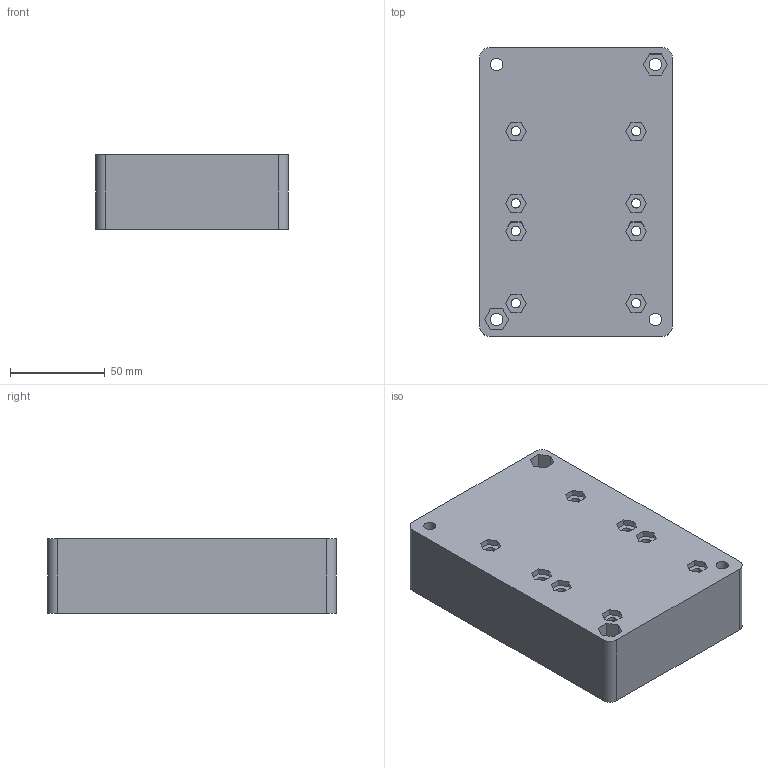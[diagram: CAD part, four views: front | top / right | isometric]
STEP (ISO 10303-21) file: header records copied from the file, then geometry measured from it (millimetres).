
FILE_DESCRIPTION(/* description */ ('STEP AP242 Edition 2','CAx-IF Rec.Pracs.---Representation and Presentation of Product Manufacturing Information (PMI)---4.0---2014-10-13','CAx-IF Rec.Pracs.---3D Tessellated Geometry---0.4---2014-09-14','2;1','CAx-IF Rec.Pracs.---User Defined Attributes---1.5---2016-08-15'),/* implementation_level */ '2;1');
FILE_NAME(/* name */ 'electronics box - Electronics Box Housing',/* time_stamp */ '2026-05-29T17:27:44Z',/* author */ (''),/* organization */ (''),/* preprocessor_version */ 'ST-DEVELOPER v20',/* originating_system */ 'ONSHAPE BY PTC INC, 1.215',/* authorisation */ ' ');
FILE_SCHEMA (('AP242_MANAGED_MODEL_BASED_3D_ENGINEERING_MIM_LF { 1 0 10303 442 3 1 4 }'));
Length unit declared in the file: metre
Products named in the file (1): Electronics Box Housing
Bounding box: 101.6 x 152.4 x 39.37 mm (x, y, z)
Volume: 164413.3 mm3; surface area: 71794.1 mm2
Topology: 1 solids, 1 shells, 123 faces, 324 edges, 216 vertices
Faces by surface type: plane 99, cylinder 24
Full cylindrical faces by diameter (mm): 4.915 x8, 6.528 x4
Entity records: 3780 total; most frequent: CARTESIAN_POINT 652, ORIENTED_EDGE 624, DIRECTION 608, EDGE_CURVE 312, LINE 264, VECTOR 264, VERTEX_POINT 216, EDGE_LOOP 174
